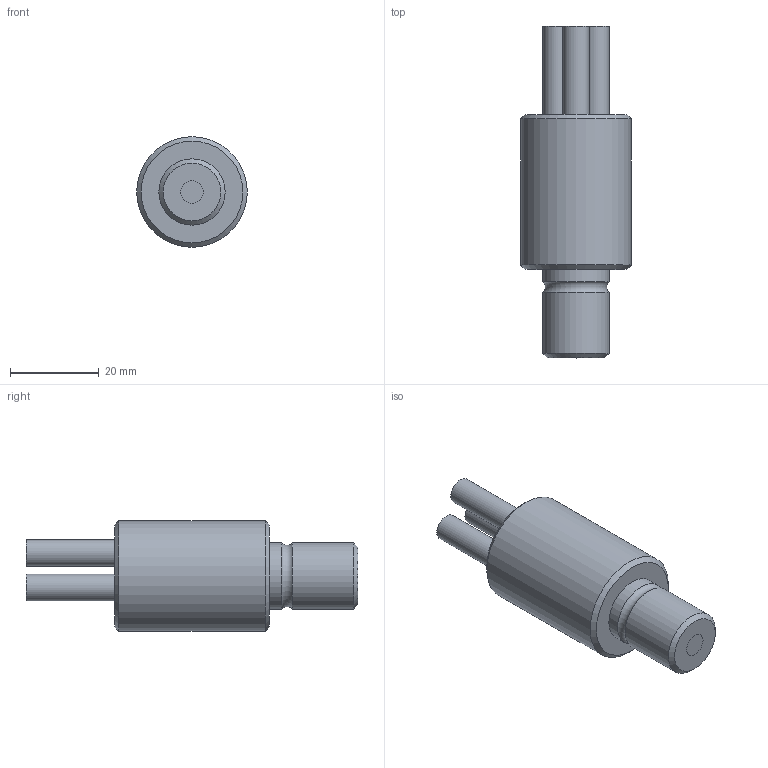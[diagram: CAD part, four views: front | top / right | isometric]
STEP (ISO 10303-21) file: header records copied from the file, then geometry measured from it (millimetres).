
FILE_DESCRIPTION(/* description */ (''),/* implementation_level */ '2;1');
FILE_NAME(/* name */ '',/* time_stamp */ '2023-04-03T17:21:36+09:00',/* author */ (''),/* organization */ (''),/* preprocessor_version */ 'ST-DEVELOPER v19.2',/* originating_system */ 'Autodesk Translation Framework v11.17.0.187',/* authorisation */ '');
FILE_SCHEMA (('AUTOMOTIVE_DESIGN { 1 0 10303 214 3 1 1 }'));
Length unit declared in the file: millimetre
Products named in the file (1): LGC3-3L 共通受光部
Bounding box: 25 x 75 x 25 mm (x, y, z)
Volume: 22266.5 mm3; surface area: 7688.2 mm2
Topology: 8 solids, 8 shells, 36 faces, 49 edges, 31 vertices
Faces by surface type: plane 18, cylinder 14, cone 3, torus 1
Full cylindrical faces by diameter (mm): 3 x6, 5.2 x2, 6 x3, 15 x2, 25 x1
Entity records: 803 total; most frequent: DIRECTION 155, CARTESIAN_POINT 117, ORIENTED_EDGE 98, AXIS2_PLACEMENT_3D 69, EDGE_CURVE 49, EDGE_LOOP 44, FACE_OUTER_BOUND 36, ADVANCED_FACE 36
